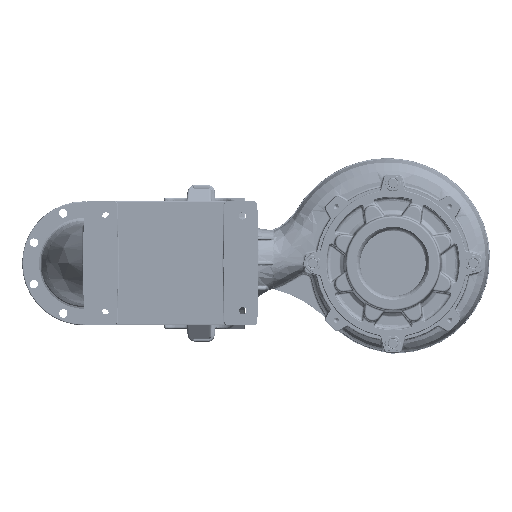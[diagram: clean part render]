
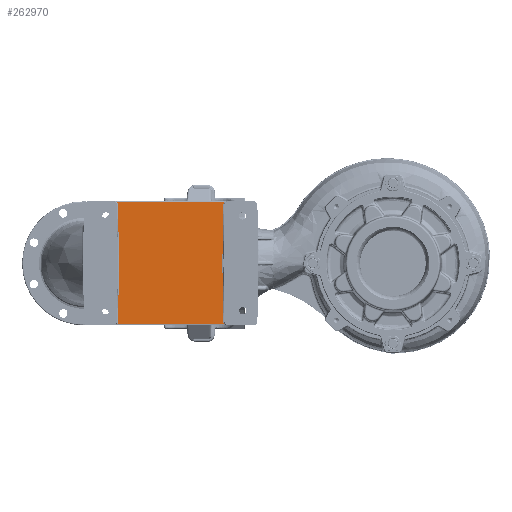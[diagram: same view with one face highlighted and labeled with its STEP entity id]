
A CAD part, front view. The second image highlights one B-rep face of the part: STEP entity #262970.
In plain terms, the highlighted planar face has unit normal (0, -1, 0).
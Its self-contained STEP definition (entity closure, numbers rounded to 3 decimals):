
#7341 = CARTESIAN_POINT ( 'NONE',  ( -755.373, -688.074, 166.968 ) ) ;
#8254 = CARTESIAN_POINT ( 'NONE',  ( -462.627, -688.074, 166.968 ) ) ;
#12871 = CARTESIAN_POINT ( 'NONE',  ( -750.532, -688.074, -0.032 ) ) ;
#14431 = VERTEX_POINT ( 'NONE', #171257 ) ;
#14710 = PLANE ( 'NONE',  #92745 ) ;
#15201 = EDGE_CURVE ( 'NONE', #225639, #59384, #161938, .T. ) ;
#19983 = DIRECTION ( 'NONE',  ( 0., 1., 0. ) ) ;
#21812 = CARTESIAN_POINT ( 'NONE',  ( -753.329, -688.074, -160.259 ) ) ;
#26938 = AXIS2_PLACEMENT_3D ( 'NONE', #239278, #19983, #77959 ) ;
#31031 = VERTEX_POINT ( 'NONE', #355538 ) ;
#39513 = AXIS2_PLACEMENT_3D ( 'NONE', #200559, #64833, #148346 ) ;
#39725 = ORIENTED_EDGE ( 'NONE', *, *, #189315, .T. ) ;
#40098 = CARTESIAN_POINT ( 'NONE',  ( -846.5, -688.074, -0.032 ) ) ;
#43704 = DIRECTION ( 'NONE',  ( 1., 0., 0. ) ) ;
#59384 = VERTEX_POINT ( 'NONE', #21812 ) ;
#64833 = DIRECTION ( 'NONE',  ( 0., 1., 0. ) ) ;
#69242 = ORIENTED_EDGE ( 'NONE', *, *, #15201, .T. ) ;
#69615 = FACE_OUTER_BOUND ( 'NONE', #114018, .T. ) ;
#73234 = CARTESIAN_POINT ( 'NONE',  ( -766.327, -688.074, -160.032 ) ) ;
#77959 = DIRECTION ( 'NONE',  ( 0., 0., -1. ) ) ;
#87486 = LINE ( 'NONE', #168038, #104838 ) ;
#90500 = AXIS2_PLACEMENT_3D ( 'NONE', #228188, #338400, #283885 ) ;
#91278 = VERTEX_POINT ( 'NONE', #211984 ) ;
#92745 = AXIS2_PLACEMENT_3D ( 'NONE', #40098, #99418, #95827 ) ;
#95710 = DIRECTION ( 'NONE',  ( 0.017, 0., 1. ) ) ;
#95827 = DIRECTION ( 'NONE',  ( 0., 0., -1. ) ) ;
#99418 = DIRECTION ( 'NONE',  ( 0., -1., 0. ) ) ;
#104505 = ORIENTED_EDGE ( 'NONE', *, *, #247130, .T. ) ;
#104838 = VECTOR ( 'NONE', #137746, 1000. ) ;
#109257 = EDGE_CURVE ( 'NONE', #235322, #14431, #339342, .T. ) ;
#109830 = EDGE_CURVE ( 'NONE', #14431, #91278, #147777, .T. ) ;
#114018 = EDGE_LOOP ( 'NONE', ( #128447, #104505, #39725, #310772, #268811, #214469, #213863, #69242, #222009, #144768 ) ) ;
#116167 = CIRCLE ( 'NONE', #39513, 13. ) ;
#117643 = CARTESIAN_POINT ( 'NONE',  ( -464.671, -688.074, 160.195 ) ) ;
#118361 = VECTOR ( 'NONE', #288529, 1000. ) ;
#122097 = CARTESIAN_POINT ( 'NONE',  ( -467.468, -688.074, -0.032 ) ) ;
#122971 = VECTOR ( 'NONE', #154901, 1000. ) ;
#128447 = ORIENTED_EDGE ( 'NONE', *, *, #109830, .T. ) ;
#137746 = DIRECTION ( 'NONE',  ( 0.017, 0., -1. ) ) ;
#144768 = ORIENTED_EDGE ( 'NONE', *, *, #109257, .T. ) ;
#147777 = CIRCLE ( 'NONE', #26938, 13. ) ;
#148346 = DIRECTION ( 'NONE',  ( 0., 0., -1. ) ) ;
#154901 = DIRECTION ( 'NONE',  ( -0.017, 0., -1. ) ) ;
#159953 = CARTESIAN_POINT ( 'NONE',  ( -464.671, -688.074, 160.195 ) ) ;
#161938 = LINE ( 'NONE', #237383, #122971 ) ;
#162607 = VERTEX_POINT ( 'NONE', #7341 ) ;
#168038 = CARTESIAN_POINT ( 'NONE',  ( -750.533, -688.074, 0.02 ) ) ;
#171257 = CARTESIAN_POINT ( 'NONE',  ( -462.627, -688.074, -167.032 ) ) ;
#179559 = VERTEX_POINT ( 'NONE', #8254 ) ;
#183221 = VECTOR ( 'NONE', #95710, 1000. ) ;
#186769 = EDGE_CURVE ( 'NONE', #59384, #235322, #312135, .T. ) ;
#189315 = EDGE_CURVE ( 'NONE', #220422, #336959, #321951, .T. ) ;
#193324 = LINE ( 'NONE', #212278, #314637 ) ;
#200559 = CARTESIAN_POINT ( 'NONE',  ( -451.673, -688.074, 159.968 ) ) ;
#210238 = DIRECTION ( 'NONE',  ( 0., 0., -1. ) ) ;
#211984 = CARTESIAN_POINT ( 'NONE',  ( -464.671, -688.074, -160.259 ) ) ;
#212278 = CARTESIAN_POINT ( 'NONE',  ( -846.5, -688.074, 166.968 ) ) ;
#213863 = ORIENTED_EDGE ( 'NONE', *, *, #218963, .T. ) ;
#214469 = ORIENTED_EDGE ( 'NONE', *, *, #357171, .T. ) ;
#218271 = LINE ( 'NONE', #261900, #118361 ) ;
#218963 = EDGE_CURVE ( 'NONE', #31031, #225639, #87486, .T. ) ;
#220422 = VERTEX_POINT ( 'NONE', #122097 ) ;
#222009 = ORIENTED_EDGE ( 'NONE', *, *, #186769, .T. ) ;
#225639 = VERTEX_POINT ( 'NONE', #12871 ) ;
#228188 = CARTESIAN_POINT ( 'NONE',  ( -766.327, -688.074, 159.968 ) ) ;
#235322 = VERTEX_POINT ( 'NONE', #313554 ) ;
#237383 = CARTESIAN_POINT ( 'NONE',  ( -753.329, -688.074, -160.259 ) ) ;
#238078 = DIRECTION ( 'NONE',  ( 0., 1., 0. ) ) ;
#239278 = CARTESIAN_POINT ( 'NONE',  ( -451.673, -688.074, -160.032 ) ) ;
#247130 = EDGE_CURVE ( 'NONE', #91278, #220422, #218271, .T. ) ;
#261900 = CARTESIAN_POINT ( 'NONE',  ( -467.467, -688.074, -0.085 ) ) ;
#262970 = ADVANCED_FACE ( 'NONE', ( #69615 ), #14710, .T. ) ;
#268811 = ORIENTED_EDGE ( 'NONE', *, *, #324560, .T. ) ;
#269145 = DIRECTION ( 'NONE',  ( -1., 0., 0. ) ) ;
#270199 = CIRCLE ( 'NONE', #90500, 13. ) ;
#283048 = VECTOR ( 'NONE', #43704, 1000. ) ;
#283885 = DIRECTION ( 'NONE',  ( 0., 0., -1. ) ) ;
#288529 = DIRECTION ( 'NONE',  ( -0.017, 0., 1. ) ) ;
#299465 = EDGE_CURVE ( 'NONE', #336959, #179559, #116167, .T. ) ;
#310772 = ORIENTED_EDGE ( 'NONE', *, *, #299465, .T. ) ;
#312135 = CIRCLE ( 'NONE', #317896, 13. ) ;
#313554 = CARTESIAN_POINT ( 'NONE',  ( -755.373, -688.074, -167.032 ) ) ;
#314637 = VECTOR ( 'NONE', #269145, 1000. ) ;
#317896 = AXIS2_PLACEMENT_3D ( 'NONE', #73234, #238078, #210238 ) ;
#319876 = CARTESIAN_POINT ( 'NONE',  ( -451.673, -688.074, -167.032 ) ) ;
#321951 = LINE ( 'NONE', #159953, #183221 ) ;
#324560 = EDGE_CURVE ( 'NONE', #179559, #162607, #193324, .T. ) ;
#336959 = VERTEX_POINT ( 'NONE', #117643 ) ;
#338400 = DIRECTION ( 'NONE',  ( 0., 1., 0. ) ) ;
#339342 = LINE ( 'NONE', #319876, #283048 ) ;
#355538 = CARTESIAN_POINT ( 'NONE',  ( -753.329, -688.074, 160.195 ) ) ;
#357171 = EDGE_CURVE ( 'NONE', #162607, #31031, #270199, .T. ) ;
